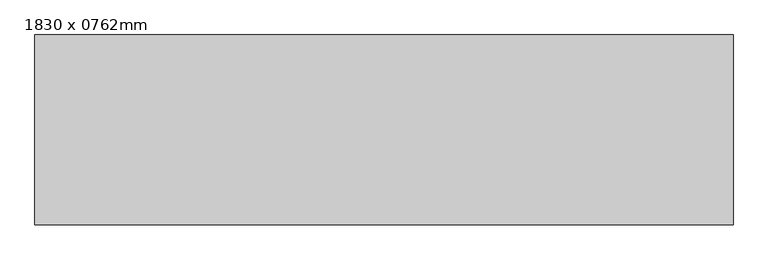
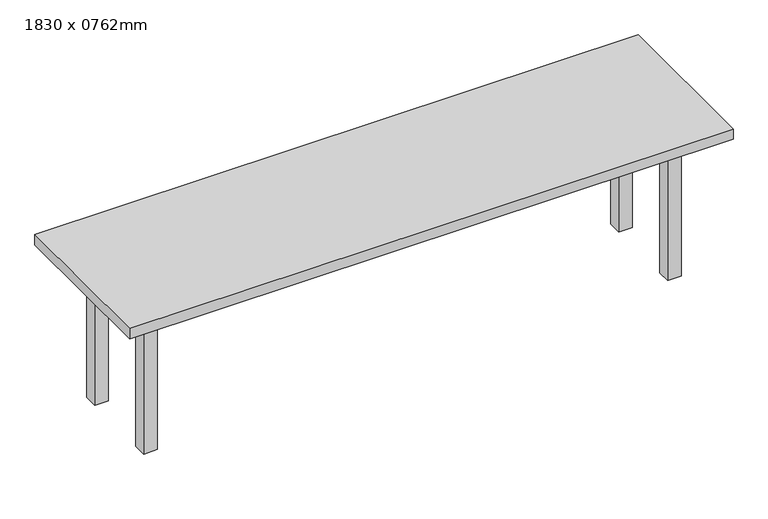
"""IFC4 building model written with IfcOpenShell, lengths in millimetres: furniture geometry, 桌子 - 矩形 : 1830 x 0762mm."""

from ifc_helpers import new_model, si_unit, frame, origin, origin_with_axes, place, context, project, spatial, polyline, outline, extrude, source, transform, mapped, element, save


def furniture_1830_x_0762mm_fae4c697(model_context):
    return source(origin(), model_context, "Body", "SweptSolid", [
        extrude(outline(polyline([(1184.1, 190.5), (1184.1, 165.1), (-1184.1, 165.1), (-1184.1, 190.5), (1184.1, 190.5)])), frame((0.0, 0.0, 609.6), z_axis=(0.0, 0.0, 1.0), x_axis=(1.0, 0.0, 0.0)), (0.0, 0.0, 1.0), 101.6),
        extrude(outline(polyline([(1184.1, -190.5), (-1184.1, -190.5), (-1184.1, -165.1), (1184.1, -165.1), (1184.1, -190.5)])), frame((0.0, 0.0, 609.6), z_axis=(0.0, 0.0, 1.0), x_axis=(1.0, 0.0, 0.0)), (0.0, 0.0, 1.0), 101.6),
        extrude(outline(polyline([(-1196.8, -165.1), (-1222.2, -165.1), (-1222.2, 165.1), (-1196.8, 165.1), (-1196.8, -165.1)])), frame((0.0, 0.0, 609.6), z_axis=(0.0, 0.0, 1.0), x_axis=(1.0, 0.0, 0.0)), (0.0, 0.0, 1.0), 101.6),
        extrude(outline(polyline([(1196.8, -165.1), (1196.8, 165.1), (1222.2, 165.1), (1222.2, -165.1), (1196.8, -165.1)])), frame((0.0, 0.0, 609.6), z_axis=(0.0, 0.0, 1.0), x_axis=(1.0, 0.0, 0.0)), (0.0, 0.0, 1.0), 101.6),
        extrude(outline(polyline([(1400.0, 381.0), (1400.0, -381.0), (-1400.0, -381.0), (-1400.0, 381.0), (1400.0, 381.0)])), frame((0.0, 0.0, 711.2), z_axis=(0.0, 0.0, 1.0), x_axis=(1.0, 0.0, 0.0)), (0.0, 0.0, 1.0), 50.8),
        extrude(outline(polyline([(-1184.1, 228.6), (-1184.1, 165.1), (-1247.6, 165.1), (-1247.6, 228.6), (-1184.1, 228.6)])), origin_with_axes(), (0.0, 0.0, 1.0), 711.2),
        extrude(outline(polyline([(1184.1, 228.6), (1247.6, 228.6), (1247.6, 165.1), (1184.1, 165.1), (1184.1, 228.6)])), origin_with_axes(), (0.0, 0.0, 1.0), 711.2),
        extrude(outline(polyline([(-1184.1, -228.6), (-1247.6, -228.6), (-1247.6, -165.1), (-1184.1, -165.1), (-1184.1, -228.6)])), origin_with_axes(), (0.0, 0.0, 1.0), 711.2),
        extrude(outline(polyline([(1184.1, -228.6), (1184.1, -165.1), (1247.6, -165.1), (1247.6, -228.6), (1184.1, -228.6)])), origin_with_axes(), (0.0, 0.0, 1.0), 711.2),
    ])


if __name__ == "__main__":
    model = new_model("IFC4")
    model_context = context("Model", 3, world=origin())
    ifc_project = project(units=[si_unit("LENGTHUNIT", "METRE", prefix="MILLI")], contexts=[model_context])
    site = spatial("IfcSite", under=ifc_project)
    building = spatial("IfcBuilding", under=site)
    placement = place(None, origin())
    furniture_1830_x_0762mm_shape = furniture_1830_x_0762mm_fae4c697(model_context)
    element("IfcFurniture", 1, ObjectType="桌子 - 矩形 : 1830 x 0762mm", at=placement, inside=building, context=model_context, shape_type="MappedRepresentation", body=[
        mapped(furniture_1830_x_0762mm_shape, transform((0.0, 0.0, 0.0), x_axis=(1.0, 0.0, 0.0), y_axis=(0.0, 1.0, 0.0), z_axis=(0.0, 0.0, 1.0))),
    ])
    save(model, "model.ifc")
